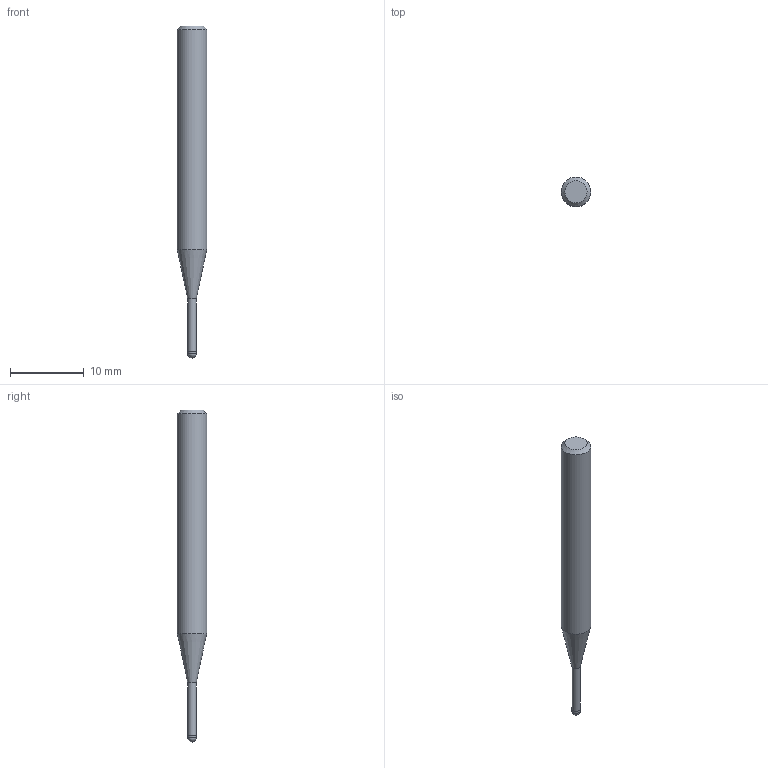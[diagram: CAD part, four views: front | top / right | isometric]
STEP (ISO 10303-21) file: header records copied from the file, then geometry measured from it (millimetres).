
FILE_DESCRIPTION((''),'2;1');
FILE_NAME('C:\Users\nsx150\AppData\Local\Temp\Mastercam 2021\3SYKECWX22\TEMP.step','2021-04-22T10:02:47',(''),(''),'STEP Write','Mastercam 2021 ... CNC Software, Inc.','');
FILE_SCHEMA(('AUTOMOTIVE_DESIGN'));
Length unit declared in the file: millimetre
Products named in the file (1): None
Bounding box: 4 x 4 x 45 mm (x, y, z)
Volume: 425.9 mm3; surface area: 475.9 mm2
Topology: 2 solids, 2 shells, 9 faces, 14 edges, 8 vertices
Faces by surface type: plane 3, cylinder 3, cone 2, sphere 1
Full cylindrical faces by diameter (mm): 1.15 x1, 1.2 x1, 4 x1
Entity records: 211 total; most frequent: DIRECTION 36, CARTESIAN_POINT 25, AXIS2_PLACEMENT_3D 18, ORIENTED_EDGE 14, EDGE_LOOP 14, STYLED_ITEM 12, ADVANCED_FACE 9, FACE_BOUND 8
